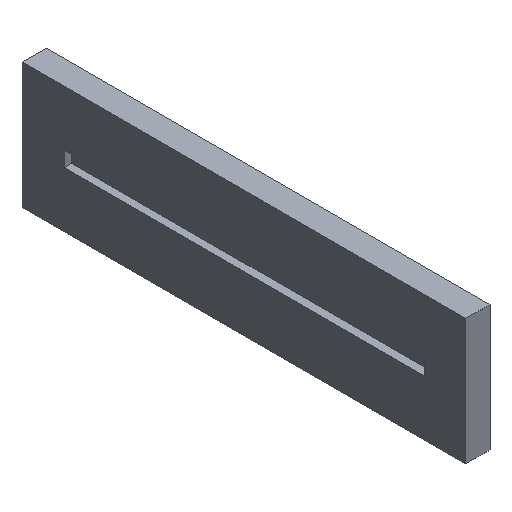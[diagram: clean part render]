
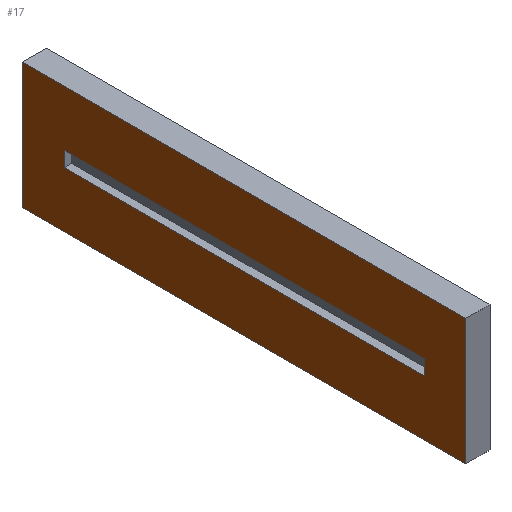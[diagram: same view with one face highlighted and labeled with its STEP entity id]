
A CAD part, isometric view. The second image highlights one B-rep face of the part: STEP entity #17.
In plain terms, the highlighted planar face has unit normal (-1, 0, 0).
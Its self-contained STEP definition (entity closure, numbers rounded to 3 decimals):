
#17 = ADVANCED_FACE('',(#18,#52),#86,.F.);
#18 = FACE_BOUND('',#19,.F.);
#19 = EDGE_LOOP('',(#20,#30,#38,#46));
#20 = ORIENTED_EDGE('',*,*,#21,.F.);
#21 = EDGE_CURVE('',#22,#24,#26,.T.);
#22 = VERTEX_POINT('',#23);
#23 = CARTESIAN_POINT('',(-46.6,-29.6,39.6));
#24 = VERTEX_POINT('',#25);
#25 = CARTESIAN_POINT('',(-46.6,-29.6,56.4));
#26 = LINE('',#27,#28);
#27 = CARTESIAN_POINT('',(-46.6,-29.6,39.6));
#28 = VECTOR('',#29,1.);
#29 = DIRECTION('',(0.,0.,1.));
#30 = ORIENTED_EDGE('',*,*,#31,.T.);
#31 = EDGE_CURVE('',#22,#32,#34,.T.);
#32 = VERTEX_POINT('',#33);
#33 = CARTESIAN_POINT('',(-46.6,29.6,39.6));
#34 = LINE('',#35,#36);
#35 = CARTESIAN_POINT('',(-46.6,-29.6,39.6));
#36 = VECTOR('',#37,1.);
#37 = DIRECTION('',(-0.,1.,0.));
#38 = ORIENTED_EDGE('',*,*,#39,.T.);
#39 = EDGE_CURVE('',#32,#40,#42,.T.);
#40 = VERTEX_POINT('',#41);
#41 = CARTESIAN_POINT('',(-46.6,29.6,56.4));
#42 = LINE('',#43,#44);
#43 = CARTESIAN_POINT('',(-46.6,29.6,39.6));
#44 = VECTOR('',#45,1.);
#45 = DIRECTION('',(0.,0.,1.));
#46 = ORIENTED_EDGE('',*,*,#47,.F.);
#47 = EDGE_CURVE('',#24,#40,#48,.T.);
#48 = LINE('',#49,#50);
#49 = CARTESIAN_POINT('',(-46.6,-29.6,56.4));
#50 = VECTOR('',#51,1.);
#51 = DIRECTION('',(-0.,1.,0.));
#52 = FACE_BOUND('',#53,.F.);
#53 = EDGE_LOOP('',(#54,#64,#72,#80));
#54 = ORIENTED_EDGE('',*,*,#55,.T.);
#55 = EDGE_CURVE('',#56,#58,#60,.T.);
#56 = VERTEX_POINT('',#57);
#57 = CARTESIAN_POINT('',(-46.6,24.,47.));
#58 = VERTEX_POINT('',#59);
#59 = CARTESIAN_POINT('',(-46.6,-24.,47.));
#60 = LINE('',#61,#62);
#61 = CARTESIAN_POINT('',(-46.6,-26.8,47.));
#62 = VECTOR('',#63,1.);
#63 = DIRECTION('',(0.,-1.,0.));
#64 = ORIENTED_EDGE('',*,*,#65,.T.);
#65 = EDGE_CURVE('',#58,#66,#68,.T.);
#66 = VERTEX_POINT('',#67);
#67 = CARTESIAN_POINT('',(-46.6,-24.,49.));
#68 = LINE('',#69,#70);
#69 = CARTESIAN_POINT('',(-46.6,-24.,43.3));
#70 = VECTOR('',#71,1.);
#71 = DIRECTION('',(0.,0.,1.));
#72 = ORIENTED_EDGE('',*,*,#73,.F.);
#73 = EDGE_CURVE('',#74,#66,#76,.T.);
#74 = VERTEX_POINT('',#75);
#75 = CARTESIAN_POINT('',(-46.6,24.,49.));
#76 = LINE('',#77,#78);
#77 = CARTESIAN_POINT('',(-46.6,-26.8,49.));
#78 = VECTOR('',#79,1.);
#79 = DIRECTION('',(0.,-1.,0.));
#80 = ORIENTED_EDGE('',*,*,#81,.F.);
#81 = EDGE_CURVE('',#56,#74,#82,.T.);
#82 = LINE('',#83,#84);
#83 = CARTESIAN_POINT('',(-46.6,24.,43.3));
#84 = VECTOR('',#85,1.);
#85 = DIRECTION('',(0.,0.,1.));
#86 = PLANE('',#87);
#87 = AXIS2_PLACEMENT_3D('',#88,#89,#90);
#88 = CARTESIAN_POINT('',(-46.6,-29.6,39.6));
#89 = DIRECTION('',(1.,0.,-0.));
#90 = DIRECTION('',(0.,0.,1.));
